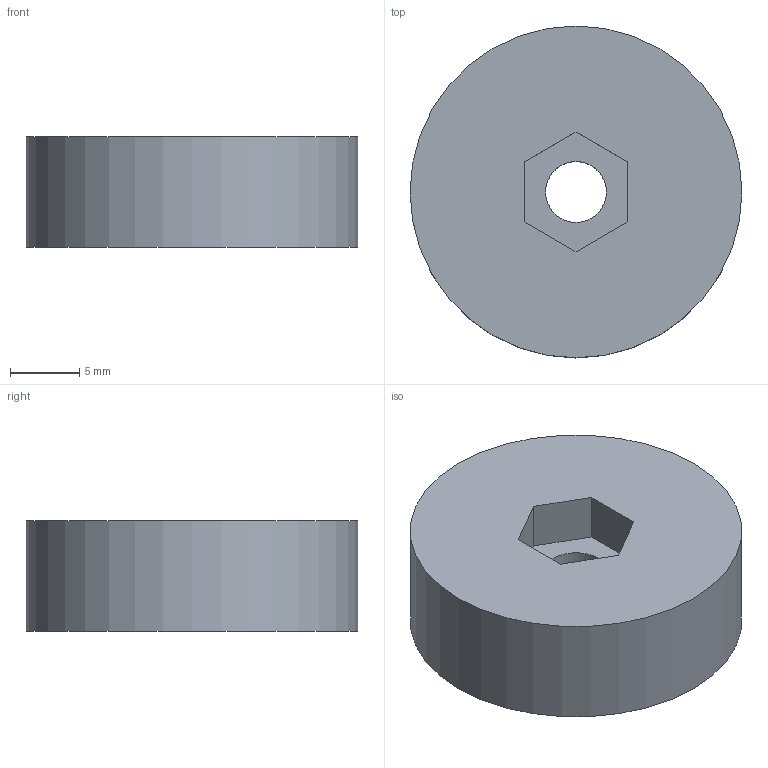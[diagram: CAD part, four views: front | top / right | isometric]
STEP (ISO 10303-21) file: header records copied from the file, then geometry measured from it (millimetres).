
FILE_DESCRIPTION(('Open CASCADE Model'),'2;1');
FILE_NAME('Open CASCADE Shape Model','2026-10-02T16:08:58',('Author'),( 'Open CASCADE'),'Open CASCADE STEP processor 7.8','Open CASCADE 7.8' ,'Unknown');
FILE_SCHEMA(('AUTOMOTIVE_DESIGN { 1 0 10303 214 1 1 1 1 }'));
Length unit declared in the file: millimetre
Products named in the file (1): Open CASCADE STEP translator 7.8 9
Bounding box: 24 x 24 x 8 mm (x, y, z)
Volume: 3380.2 mm3; surface area: 1630.7 mm2
Topology: 1 solids, 1 shells, 11 faces, 24 edges, 16 vertices
Faces by surface type: plane 9, cylinder 2
Full cylindrical faces by diameter (mm): 4.4 x1, 24 x1
Entity records: 616 total; most frequent: CARTESIAN_POINT 112, DIRECTION 88, LINE 52, VECTOR 52, ORIENTED_EDGE 48, PCURVE 48, DEFINITIONAL_REPRESENTATION 48, EDGE_CURVE 24
